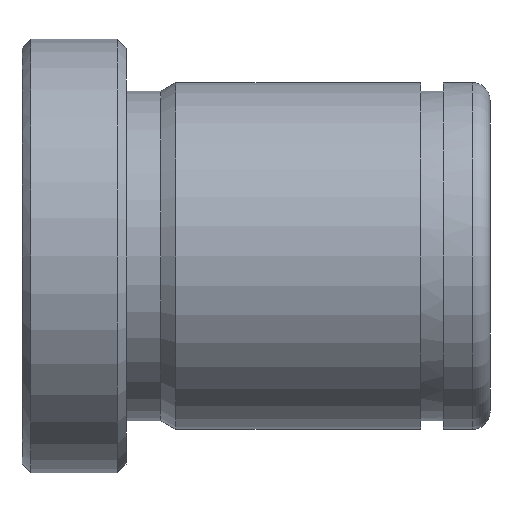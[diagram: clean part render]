
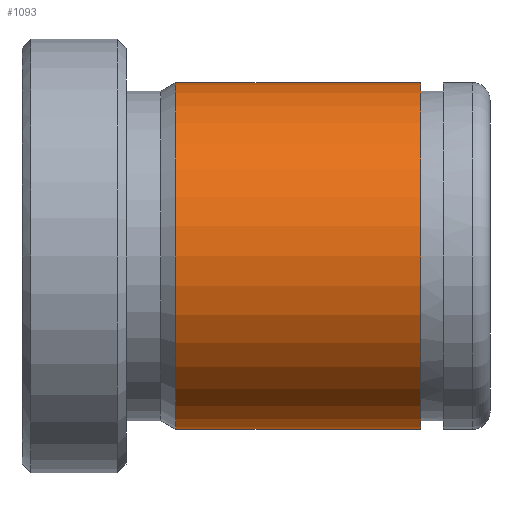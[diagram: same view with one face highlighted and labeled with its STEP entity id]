
A CAD part, front view. The second image highlights one B-rep face of the part: STEP entity #1093.
In plain terms, the highlighted cylindrical face has radius 10 mm (diameter 20 mm), a partial arc.
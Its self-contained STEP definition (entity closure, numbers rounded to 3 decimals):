
#877=CARTESIAN_POINT('Vertex',(8.866,0.,-10.)) ;
#884=CARTESIAN_POINT('Vertex',(8.866,0.,10.)) ;
#913=CARTESIAN_POINT('Axis2P3D Location',(8.866,0.,0.)) ;
#917=CARTESIAN_POINT('Vertex',(8.866,-10.,0.)) ;
#920=CARTESIAN_POINT('Axis2P3D Location',(8.866,0.,0.)) ;
#1033=CARTESIAN_POINT('Line Origine',(54.,0.,10.)) ;
#1037=CARTESIAN_POINT('Vertex',(23.,0.,10.)) ;
#1051=CARTESIAN_POINT('Vertex',(23.,0.,-10.)) ;
#1054=CARTESIAN_POINT('Line Origine',(54.,0.,-10.)) ;
#1068=CARTESIAN_POINT('Axis2P3D Location',(54.,0.,0.)) ;
#1073=CARTESIAN_POINT('Axis2P3D Location',(23.,0.,0.)) ;
#1077=CARTESIAN_POINT('Vertex',(23.,-10.,0.)) ;
#1080=CARTESIAN_POINT('Axis2P3D Location',(23.,0.,0.)) ;
#914=DIRECTION('Axis2P3D Direction',(1.,0.,-0.)) ;
#921=DIRECTION('Axis2P3D Direction',(1.,0.,-0.)) ;
#1034=DIRECTION('Vector Direction',(-1.,0.,0.)) ;
#1055=DIRECTION('Vector Direction',(-1.,0.,0.)) ;
#1069=DIRECTION('Axis2P3D Direction',(-1.,-0.,-0.)) ;
#1070=DIRECTION('Axis2P3D XDirection',(0.,0.,-1.)) ;
#1074=DIRECTION('Axis2P3D Direction',(-1.,-0.,-0.)) ;
#1081=DIRECTION('Axis2P3D Direction',(-1.,-0.,-0.)) ;
#915=AXIS2_PLACEMENT_3D('Circle Axis2P3D',#913,#914,$) ;
#922=AXIS2_PLACEMENT_3D('Circle Axis2P3D',#920,#921,$) ;
#1071=AXIS2_PLACEMENT_3D('Cylinder Axis2P3D',#1068,#1069,#1070) ;
#1075=AXIS2_PLACEMENT_3D('Circle Axis2P3D',#1073,#1074,$) ;
#1082=AXIS2_PLACEMENT_3D('Circle Axis2P3D',#1080,#1081,$) ;
#1086=ORIENTED_EDGE('',*,*,#1058,.T.) ;
#1087=ORIENTED_EDGE('',*,*,#1079,.F.) ;
#1088=ORIENTED_EDGE('',*,*,#1084,.F.) ;
#1089=ORIENTED_EDGE('',*,*,#1039,.T.) ;
#1090=ORIENTED_EDGE('',*,*,#924,.T.) ;
#1091=ORIENTED_EDGE('',*,*,#919,.T.) ;
#1035=VECTOR('Line Direction',#1034,1.) ;
#1056=VECTOR('Line Direction',#1055,1.) ;
#1093=ADVANCED_FACE('553-15X27',(#1092),#1072,.T.) ;
#916=CIRCLE('generated circle',#915,10.) ;
#923=CIRCLE('generated circle',#922,10.) ;
#1076=CIRCLE('generated circle',#1075,10.) ;
#1083=CIRCLE('generated circle',#1082,10.) ;
#1072=CYLINDRICAL_SURFACE('generated cylinder',#1071,10.) ;
#919=EDGE_CURVE('',#918,#878,#916,.T.) ;
#924=EDGE_CURVE('',#885,#918,#923,.T.) ;
#1039=EDGE_CURVE('',#1038,#885,#1036,.T.) ;
#1058=EDGE_CURVE('',#878,#1052,#1057,.F.) ;
#1079=EDGE_CURVE('',#1078,#1052,#1076,.F.) ;
#1084=EDGE_CURVE('',#1038,#1078,#1083,.F.) ;
#1085=EDGE_LOOP('',(#1086,#1087,#1088,#1089,#1090,#1091)) ;
#1092=FACE_OUTER_BOUND('',#1085,.T.) ;
#1036=LINE('Line',#1033,#1035) ;
#1057=LINE('Line',#1054,#1056) ;
#878=VERTEX_POINT('',#877) ;
#885=VERTEX_POINT('',#884) ;
#918=VERTEX_POINT('',#917) ;
#1038=VERTEX_POINT('',#1037) ;
#1052=VERTEX_POINT('',#1051) ;
#1078=VERTEX_POINT('',#1077) ;
